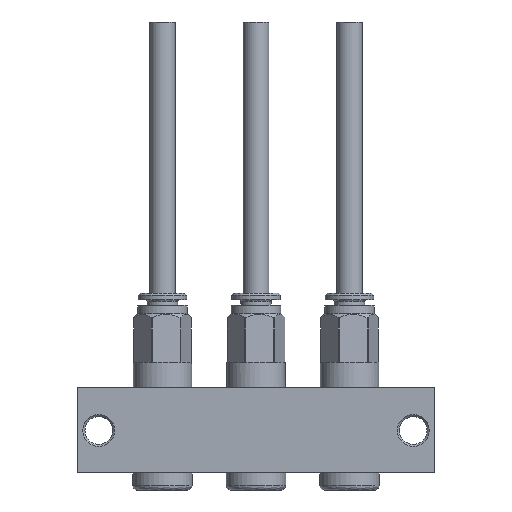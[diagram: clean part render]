
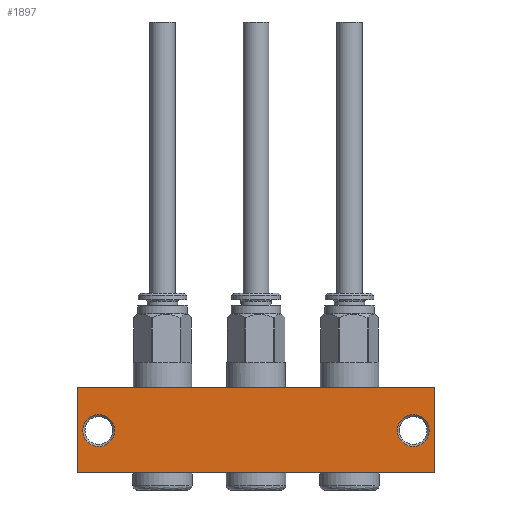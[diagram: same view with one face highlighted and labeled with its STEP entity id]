
A CAD part, front view. The second image highlights one B-rep face of the part: STEP entity #1897.
In plain terms, the highlighted planar face has unit normal (0, -1, 0).
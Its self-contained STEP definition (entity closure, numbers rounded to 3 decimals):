
#239 = DIRECTION ( 'NONE',  ( 0., 1., 0. ) ) ;
#314 = DIRECTION ( 'NONE',  ( 0., 0., 1. ) ) ;
#735 = CARTESIAN_POINT ( 'NONE',  ( 37., 0., 3.75 ) ) ;
#1897 = ADVANCED_FACE ( 'NONE', ( #29152, #38725, #25688 ), #32218, .F. ) ;
#2838 = CARTESIAN_POINT ( 'NONE',  ( 42., 0., -10. ) ) ;
#3215 = LINE ( 'NONE', #28196, #36812 ) ;
#3434 = VECTOR ( 'NONE', #23746, 1000. ) ;
#4395 = DIRECTION ( 'NONE',  ( 0., 0., 1. ) ) ;
#5670 = EDGE_CURVE ( 'NONE', #13147, #35779, #3215, .T. ) ;
#6125 = AXIS2_PLACEMENT_3D ( 'NONE', #40077, #239, #37196 ) ;
#6858 = VERTEX_POINT ( 'NONE', #735 ) ;
#7891 = CARTESIAN_POINT ( 'NONE',  ( 42., 0., 10. ) ) ;
#8509 = DIRECTION ( 'NONE',  ( 1., 0., 0. ) ) ;
#9023 = CARTESIAN_POINT ( 'NONE',  ( 42., 0., -10. ) ) ;
#9074 = VERTEX_POINT ( 'NONE', #27629 ) ;
#10380 = ORIENTED_EDGE ( 'NONE', *, *, #39634, .T. ) ;
#10701 = CIRCLE ( 'NONE', #6125, 3.75 ) ;
#12175 = EDGE_CURVE ( 'NONE', #6858, #6858, #19465, .T. ) ;
#12332 = DIRECTION ( 'NONE',  ( 0., 0., -1. ) ) ;
#12711 = ORIENTED_EDGE ( 'NONE', *, *, #5670, .F. ) ;
#13031 = VERTEX_POINT ( 'NONE', #38384 ) ;
#13147 = VERTEX_POINT ( 'NONE', #34443 ) ;
#15355 = LINE ( 'NONE', #9023, #3434 ) ;
#16195 = AXIS2_PLACEMENT_3D ( 'NONE', #19102, #19699, #314 ) ;
#17035 = ORIENTED_EDGE ( 'NONE', *, *, #28127, .T. ) ;
#17834 = AXIS2_PLACEMENT_3D ( 'NONE', #20332, #19941, #4395 ) ;
#18467 = EDGE_LOOP ( 'NONE', ( #17035, #12711, #40239, #24881 ) ) ;
#19102 = CARTESIAN_POINT ( 'NONE',  ( 37., 0., 0. ) ) ;
#19465 = CIRCLE ( 'NONE', #16195, 3.75 ) ;
#19699 = DIRECTION ( 'NONE',  ( 0., 1., 0. ) ) ;
#19941 = DIRECTION ( 'NONE',  ( 0., 1., 0. ) ) ;
#20332 = CARTESIAN_POINT ( 'NONE',  ( 42., 0., 10. ) ) ;
#20978 = LINE ( 'NONE', #7891, #24256 ) ;
#21667 = EDGE_CURVE ( 'NONE', #13031, #9074, #33601, .T. ) ;
#23746 = DIRECTION ( 'NONE',  ( 1., 0., 0. ) ) ;
#24137 = VECTOR ( 'NONE', #12332, 1000. ) ;
#24256 = VECTOR ( 'NONE', #8509, 1000. ) ;
#24872 = EDGE_CURVE ( 'NONE', #13031, #13147, #20978, .T. ) ;
#24881 = ORIENTED_EDGE ( 'NONE', *, *, #21667, .T. ) ;
#25688 = FACE_OUTER_BOUND ( 'NONE', #18467, .T. ) ;
#27629 = CARTESIAN_POINT ( 'NONE',  ( -42., 0., -10. ) ) ;
#27995 = DIRECTION ( 'NONE',  ( 0., 0., -1. ) ) ;
#28127 = EDGE_CURVE ( 'NONE', #9074, #35779, #15355, .T. ) ;
#28196 = CARTESIAN_POINT ( 'NONE',  ( 42., 0., 10. ) ) ;
#29152 = FACE_BOUND ( 'NONE', #36424, .T. ) ;
#29954 = ORIENTED_EDGE ( 'NONE', *, *, #12175, .T. ) ;
#31132 = CARTESIAN_POINT ( 'NONE',  ( -42., 0., 10. ) ) ;
#32218 = PLANE ( 'NONE',  #17834 ) ;
#33601 = LINE ( 'NONE', #31132, #24137 ) ;
#33823 = CARTESIAN_POINT ( 'NONE',  ( -37., 0., 3.75 ) ) ;
#34443 = CARTESIAN_POINT ( 'NONE',  ( 42., 0., 10. ) ) ;
#35779 = VERTEX_POINT ( 'NONE', #2838 ) ;
#36424 = EDGE_LOOP ( 'NONE', ( #29954 ) ) ;
#36812 = VECTOR ( 'NONE', #27995, 1000. ) ;
#37196 = DIRECTION ( 'NONE',  ( 0., 0., 1. ) ) ;
#37843 = EDGE_LOOP ( 'NONE', ( #10380 ) ) ;
#38384 = CARTESIAN_POINT ( 'NONE',  ( -42., 0., 10. ) ) ;
#38725 = FACE_BOUND ( 'NONE', #37843, .T. ) ;
#39634 = EDGE_CURVE ( 'NONE', #40142, #40142, #10701, .T. ) ;
#40077 = CARTESIAN_POINT ( 'NONE',  ( -37., 0., 0. ) ) ;
#40142 = VERTEX_POINT ( 'NONE', #33823 ) ;
#40239 = ORIENTED_EDGE ( 'NONE', *, *, #24872, .F. ) ;
